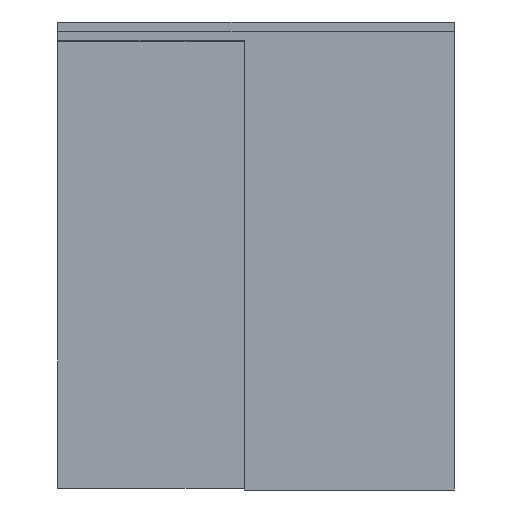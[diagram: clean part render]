
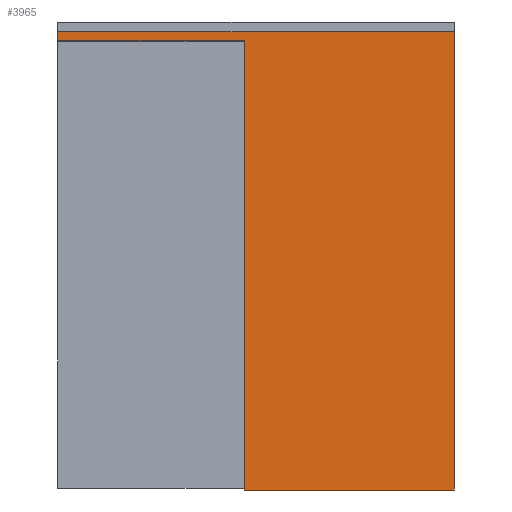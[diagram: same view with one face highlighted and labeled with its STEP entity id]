
A CAD part, front view. The second image highlights one B-rep face of the part: STEP entity #3965.
In plain terms, the highlighted planar face has unit normal (0, -1, 0).
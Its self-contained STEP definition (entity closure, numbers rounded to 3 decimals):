
#3965=ADVANCED_FACE('',(#8187),#8188,.F.);
#8187=FACE_OUTER_BOUND('',#12581,.T.);
#8188=PLANE('',#12582);
#12581=EDGE_LOOP('',(#23602,#23603,#23604,#23605,#23606,#23607));
#12582=AXIS2_PLACEMENT_3D('',#23608,#23609,#23610);
#23602=ORIENTED_EDGE('',*,*,#30210,.T.);
#23603=ORIENTED_EDGE('',*,*,#30200,.F.);
#23604=ORIENTED_EDGE('',*,*,#30204,.F.);
#23605=ORIENTED_EDGE('',*,*,#30208,.T.);
#23606=ORIENTED_EDGE('',*,*,#30211,.F.);
#23607=ORIENTED_EDGE('',*,*,#30212,.F.);
#23608=CARTESIAN_POINT('',(0.0,-46.5,2333.0));
#23609=DIRECTION('',(0.0,1.0,-0.0));
#23610=DIRECTION('',(0.0,0.0,1.0));
#30200=EDGE_CURVE('',#37065,#37060,#37067,.T.);
#30204=EDGE_CURVE('',#37071,#37065,#37073,.T.);
#30208=EDGE_CURVE('',#37071,#37077,#37079,.T.);
#30210=EDGE_CURVE('',#37081,#37060,#37082,.T.);
#30211=EDGE_CURVE('',#37083,#37077,#37084,.T.);
#30212=EDGE_CURVE('',#37081,#37083,#37085,.T.);
#37060=VERTEX_POINT('',#46480);
#37065=VERTEX_POINT('',#46487);
#37067=LINE('',#46490,#46491);
#37071=VERTEX_POINT('',#46496);
#37073=LINE('',#46499,#46500);
#37077=VERTEX_POINT('',#46505);
#37079=LINE('',#46508,#46509);
#37081=VERTEX_POINT('',#46511);
#37082=LINE('',#46512,#46513);
#37083=VERTEX_POINT('',#46514);
#37084=LINE('',#46515,#46516);
#37085=LINE('',#46517,#46518);
#46480=CARTESIAN_POINT('',(965.0,-46.5,2322.0));
#46487=CARTESIAN_POINT('',(965.0,-46.5,0.0));
#46490=CARTESIAN_POINT('',(965.0,-46.5,7.0));
#46491=VECTOR('',#53479,1.0);
#46496=CARTESIAN_POINT('',(2050.0,-46.5,0.0));
#46499=CARTESIAN_POINT('',(1327.5,-46.5,0.0));
#46500=VECTOR('',#53482,1.0);
#46505=CARTESIAN_POINT('',(2050.0,-46.5,2368.0));
#46508=CARTESIAN_POINT('',(2050.0,-46.5,7.0));
#46509=VECTOR('',#53485,1.0);
#46511=CARTESIAN_POINT('',(0.0,-46.5,2322.0));
#46512=CARTESIAN_POINT('',(0.0,-46.5,2322.0));
#46513=VECTOR('',#53486,1.0);
#46514=CARTESIAN_POINT('',(0.0,-46.5,2368.0));
#46515=CARTESIAN_POINT('',(1270.0,-46.5,2368.0));
#46516=VECTOR('',#53487,1.0);
#46517=CARTESIAN_POINT('',(0.0,-46.5,2301.0));
#46518=VECTOR('',#53488,1.0);
#53479=DIRECTION('',(0.0,0.0,1.0));
#53482=DIRECTION('',(-1.0,0.0,0.0));
#53485=DIRECTION('',(0.0,0.0,1.0));
#53486=DIRECTION('',(1.0,0.0,0.0));
#53487=DIRECTION('',(1.0,0.0,0.0));
#53488=DIRECTION('',(0.0,0.0,1.0));
